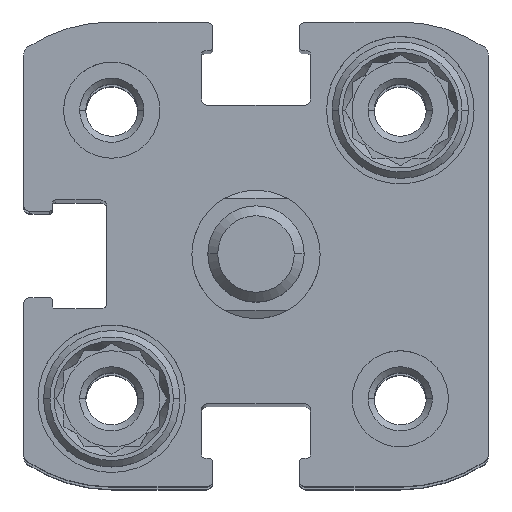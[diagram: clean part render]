
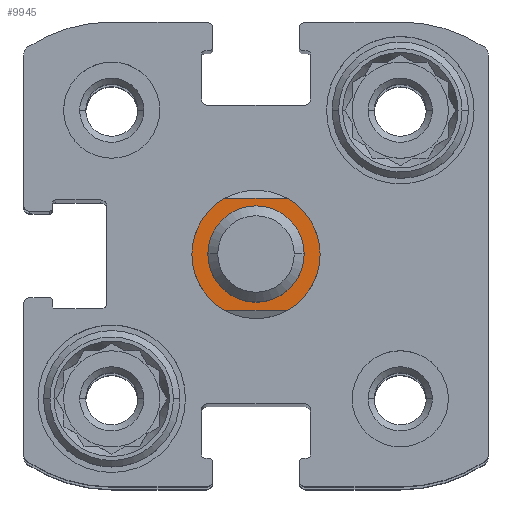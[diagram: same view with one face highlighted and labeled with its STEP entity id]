
A CAD part, top view. The second image highlights one B-rep face of the part: STEP entity #9945.
In plain terms, the highlighted planar face has unit normal (0, 0, 1).
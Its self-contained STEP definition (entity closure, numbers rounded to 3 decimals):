
#27 = DIRECTION ( 'NONE',  ( 1., 0., 0. ) ) ;
#161 = VERTEX_POINT ( 'NONE', #1573 ) ;
#435 = DIRECTION ( 'NONE',  ( 1., 0., 0. ) ) ;
#918 = EDGE_CURVE ( 'NONE', #8891, #2695, #7953, .T. ) ;
#936 = ORIENTED_EDGE ( 'NONE', *, *, #8767, .T. ) ;
#1013 = FACE_OUTER_BOUND ( 'NONE', #9820, .T. ) ;
#1195 = CIRCLE ( 'NONE', #7847, 4. ) ;
#1302 = AXIS2_PLACEMENT_3D ( 'NONE', #2932, #4000, #8462 ) ;
#1306 = CARTESIAN_POINT ( 'NONE',  ( 1.936, 3.5, 5.35 ) ) ;
#1573 = CARTESIAN_POINT ( 'NONE',  ( -2.65, 0., 5.35 ) ) ;
#1724 = EDGE_CURVE ( 'NONE', #4174, #8891, #3121, .T. ) ;
#1741 = DIRECTION ( 'NONE',  ( 0., 0., -1. ) ) ;
#1743 = CARTESIAN_POINT ( 'NONE',  ( 0., 0., 5.35 ) ) ;
#1921 = CARTESIAN_POINT ( 'NONE',  ( 0., 0., 5.35 ) ) ;
#2167 = VECTOR ( 'NONE', #4067, 1000. ) ;
#2366 = CIRCLE ( 'NONE', #10905, 2.65 ) ;
#2397 = AXIS2_PLACEMENT_3D ( 'NONE', #4710, #10181, #11131 ) ;
#2528 = CARTESIAN_POINT ( 'NONE',  ( 1.936, -3.5, 5.35 ) ) ;
#2695 = VERTEX_POINT ( 'NONE', #4163 ) ;
#2932 = CARTESIAN_POINT ( 'NONE',  ( 0., 0., 5.35 ) ) ;
#2985 = DIRECTION ( 'NONE',  ( 0., 0., -1. ) ) ;
#3121 = LINE ( 'NONE', #3954, #6594 ) ;
#3306 = CARTESIAN_POINT ( 'NONE',  ( -1.936, -3.5, 5.35 ) ) ;
#3871 = PLANE ( 'NONE',  #5231 ) ;
#3954 = CARTESIAN_POINT ( 'NONE',  ( 0., 3.5, 5.35 ) ) ;
#4000 = DIRECTION ( 'NONE',  ( 0., 0., -1. ) ) ;
#4067 = DIRECTION ( 'NONE',  ( -1., 0., 0. ) ) ;
#4137 = EDGE_CURVE ( 'NONE', #5597, #9594, #1195, .T. ) ;
#4163 = CARTESIAN_POINT ( 'NONE',  ( 4., 0., 5.35 ) ) ;
#4174 = VERTEX_POINT ( 'NONE', #9255 ) ;
#4348 = VERTEX_POINT ( 'NONE', #5319 ) ;
#4709 = CARTESIAN_POINT ( 'NONE',  ( 0., 0., 5.35 ) ) ;
#4710 = CARTESIAN_POINT ( 'NONE',  ( 0., 0., 5.35 ) ) ;
#5124 = CARTESIAN_POINT ( 'NONE',  ( 0., -3.5, 5.35 ) ) ;
#5189 = AXIS2_PLACEMENT_3D ( 'NONE', #1921, #1741, #7344 ) ;
#5221 = CIRCLE ( 'NONE', #10536, 4. ) ;
#5231 = AXIS2_PLACEMENT_3D ( 'NONE', #4709, #2985, #8455 ) ;
#5278 = EDGE_LOOP ( 'NONE', ( #936, #8949 ) ) ;
#5319 = CARTESIAN_POINT ( 'NONE',  ( 2.65, 0., 5.35 ) ) ;
#5341 = ORIENTED_EDGE ( 'NONE', *, *, #8250, .F. ) ;
#5458 = CARTESIAN_POINT ( 'NONE',  ( 0., 0., 5.35 ) ) ;
#5597 = VERTEX_POINT ( 'NONE', #3306 ) ;
#6199 = EDGE_CURVE ( 'NONE', #161, #4348, #9417, .T. ) ;
#6327 = DIRECTION ( 'NONE',  ( 0., 0., -1. ) ) ;
#6594 = VECTOR ( 'NONE', #435, 1000. ) ;
#6669 = CARTESIAN_POINT ( 'NONE',  ( 0., 0., 5.35 ) ) ;
#6684 = CARTESIAN_POINT ( 'NONE',  ( -4., 0., 5.35 ) ) ;
#7344 = DIRECTION ( 'NONE',  ( 1., 0., 0. ) ) ;
#7403 = DIRECTION ( 'NONE',  ( 1., 0., 0. ) ) ;
#7441 = DIRECTION ( 'NONE',  ( 0., 0., -1. ) ) ;
#7485 = ORIENTED_EDGE ( 'NONE', *, *, #9430, .F. ) ;
#7502 = FACE_BOUND ( 'NONE', #5278, .T. ) ;
#7847 = AXIS2_PLACEMENT_3D ( 'NONE', #5458, #9078, #27 ) ;
#7953 = CIRCLE ( 'NONE', #1302, 4. ) ;
#8116 = VERTEX_POINT ( 'NONE', #2528 ) ;
#8250 = EDGE_CURVE ( 'NONE', #9594, #4174, #10314, .T. ) ;
#8285 = DIRECTION ( 'NONE',  ( 1., 0., 0. ) ) ;
#8455 = DIRECTION ( 'NONE',  ( 0., -1., 0. ) ) ;
#8462 = DIRECTION ( 'NONE',  ( 1., 0., 0. ) ) ;
#8490 = EDGE_CURVE ( 'NONE', #8116, #5597, #8699, .T. ) ;
#8699 = LINE ( 'NONE', #5124, #2167 ) ;
#8767 = EDGE_CURVE ( 'NONE', #4348, #161, #2366, .T. ) ;
#8891 = VERTEX_POINT ( 'NONE', #1306 ) ;
#8949 = ORIENTED_EDGE ( 'NONE', *, *, #6199, .T. ) ;
#9078 = DIRECTION ( 'NONE',  ( 0., 0., -1. ) ) ;
#9255 = CARTESIAN_POINT ( 'NONE',  ( -1.936, 3.5, 5.35 ) ) ;
#9417 = CIRCLE ( 'NONE', #2397, 2.65 ) ;
#9430 = EDGE_CURVE ( 'NONE', #2695, #8116, #5221, .T. ) ;
#9594 = VERTEX_POINT ( 'NONE', #6684 ) ;
#9820 = EDGE_LOOP ( 'NONE', ( #9821, #7485, #10219, #9951, #5341, #11541 ) ) ;
#9821 = ORIENTED_EDGE ( 'NONE', *, *, #8490, .F. ) ;
#9945 = ADVANCED_FACE ( 'NONE', ( #1013, #7502 ), #3871, .F. ) ;
#9951 = ORIENTED_EDGE ( 'NONE', *, *, #1724, .F. ) ;
#10181 = DIRECTION ( 'NONE',  ( 0., 0., -1. ) ) ;
#10219 = ORIENTED_EDGE ( 'NONE', *, *, #918, .F. ) ;
#10314 = CIRCLE ( 'NONE', #5189, 4. ) ;
#10536 = AXIS2_PLACEMENT_3D ( 'NONE', #1743, #6327, #7403 ) ;
#10905 = AXIS2_PLACEMENT_3D ( 'NONE', #6669, #7441, #8285 ) ;
#11131 = DIRECTION ( 'NONE',  ( 1., 0., 0. ) ) ;
#11541 = ORIENTED_EDGE ( 'NONE', *, *, #4137, .F. ) ;
